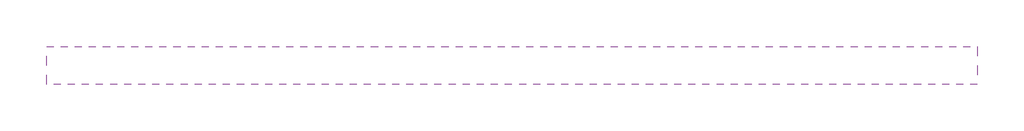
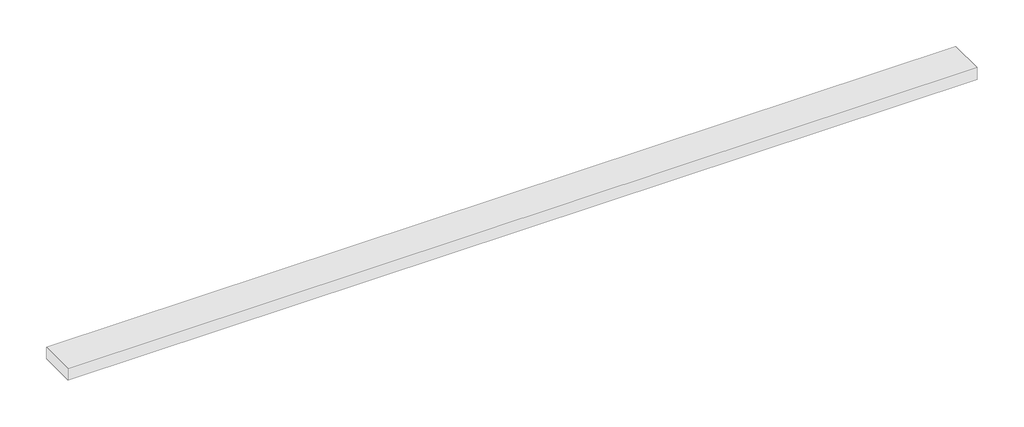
# One storey: 1 cable carrier segment.
"""IFC4 building model written with IfcOpenShell, lengths in millimetres."""

import ifcopenshell
import ifcopenshell.guid

model = None  # the IFC model being written
_history = None  # IfcOwnerHistory: only IFC2X3 demands one
_inside = {}  # id of a spatial element -> (the spatial element, [elements in it])
_under = {}  # id of a project, library or spatial element -> (it, [spatial elements below it])
_declared = {}  # id of a project -> (the project, [libraries it declares])
_typed = {}  # id of a type object -> (the type object, [elements of that type])
_made_of = {}  # id of a material, layer set ... -> (it, [elements and type objects made of it])


def new_model(schema):
    """Start an empty IFC model of exactly this schema.

    Asked for "IFC4X3", IfcOpenShell would pick the latest addendum, in which some entities
    have other attributes; the version numbers below select the first issue.
    IFC2X3 requires an IfcOwnerHistory on every rooted entity: one is made here for all.
    """
    global model, _history
    if schema == "IFC4X3":
        model = ifcopenshell.file(schema_version=(4, 3, 0, 0))
    else:
        model = ifcopenshell.file(schema=schema)
    _inside.clear()
    _under.clear()
    _declared.clear()
    _typed.clear()
    _made_of.clear()
    _history = None
    if model.schema == "IFC2X3":
        org = make("IfcOrganization", Name="unknown")
        user = make(
            "IfcPersonAndOrganization",
            ThePerson=make("IfcPerson", FamilyName="unknown"),
            TheOrganization=org,
        )
        app = make(
            "IfcApplication",
            ApplicationDeveloper=org,
            Version="unknown",
            ApplicationFullName="unknown",
            ApplicationIdentifier="unknown",
        )
        _history = make(
            "IfcOwnerHistory",
            OwningUser=user,
            OwningApplication=app,
            ChangeAction="ADDED",
            CreationDate=0,
        )
    return model


def make(cls, **values):
    """One entity of the class cls with the attributes given. An attribute that is None is left unset."""
    return model.create_entity(
        cls, **{name: value for name, value in values.items() if value is not None}
    )


def rooted(cls, **values):
    """An entity with a GlobalId (a new one), such as an element, a storey or a relation."""
    return make(cls, GlobalId=ifcopenshell.guid.new(), OwnerHistory=_history, **values)


def si_unit(unit_type, name, prefix=None):
    """IfcSIUnit, for example si_unit("LENGTHUNIT", "METRE", prefix="MILLI")."""
    return make("IfcSIUnit", UnitType=unit_type, Prefix=prefix, Name=name)


def assignment(units):
    """IfcUnitAssignment: the units of a project."""
    return None if units is None else make("IfcUnitAssignment", Units=units)


def point(xyz):
    """IfcCartesianPoint."""
    return None if xyz is None else make("IfcCartesianPoint", Coordinates=xyz)


def direction(xyz):
    """IfcDirection."""
    return None if xyz is None else make("IfcDirection", DirectionRatios=xyz)


def frame(location, z_axis=None, x_axis=None):
    """IfcAxis2Placement3D, a coordinate frame: its origin and axes. An axis left out is left unset."""
    return make(
        "IfcAxis2Placement3D",
        Location=point(location),
        Axis=direction(z_axis),
        RefDirection=direction(x_axis),
    )


def origin():
    """The frame at (0, 0, 0) with its axes left unset."""
    return frame((0.0, 0.0, 0.0))


def place(relative_to, where):
    """IfcLocalPlacement: puts the frame where relative to a parent placement (None: the world)."""
    return make(
        "IfcLocalPlacement", PlacementRelTo=relative_to, RelativePlacement=where
    )


def context(
    kind, dimensions, precision=None, world=None, true_north=None, identifier=None
):
    """IfcGeometricRepresentationContext, for example the 3D "Model" context."""
    return make(
        "IfcGeometricRepresentationContext",
        ContextIdentifier=identifier,
        ContextType=kind,
        CoordinateSpaceDimension=dimensions,
        Precision=precision,
        WorldCoordinateSystem=world,
        TrueNorth=true_north,
    )


def project(units=None, contexts=None):
    """IfcProject with its units and contexts."""
    return rooted(
        "IfcProject",
        Name="project",
        RepresentationContexts=contexts,
        UnitsInContext=assignment(units),
    )


def spatial(cls, under=None, at=None, **own):
    """A site, building, storey or space (cls), placed at a placement, below another one or the project."""
    s = rooted(cls, ObjectPlacement=at, **own)
    if under is not None:
        _under.setdefault(under.id(), (under, []))[1].append(s)
    return s


def polyline(points):
    """IfcPolyline through the points."""
    return make("IfcPolyline", Points=[point(p) for p in points])


def outline(outer, holes=None, kind="AREA"):
    """IfcArbitraryClosedProfileDef: a profile drawn as a closed curve; with holes, ...WithVoids."""
    if holes is None:
        return make("IfcArbitraryClosedProfileDef", ProfileType=kind, OuterCurve=outer)
    return make(
        "IfcArbitraryProfileDefWithVoids",
        ProfileType=kind,
        OuterCurve=outer,
        InnerCurves=holes,
    )


def extrude(swept, where, along, depth):
    """IfcExtrudedAreaSolid: the profile swept, set in the frame where, extruded along a direction by depth."""
    return make(
        "IfcExtrudedAreaSolid",
        SweptArea=swept,
        Position=where,
        ExtrudedDirection=direction(along),
        Depth=depth,
    )


def shape(context_of_items, identifier, shape_type, items):
    """IfcShapeRepresentation: the items that make up one representation, for example the "Body"."""
    return make(
        "IfcShapeRepresentation",
        ContextOfItems=context_of_items,
        RepresentationIdentifier=identifier,
        RepresentationType=shape_type,
        Items=items,
    )


def made_of(thing, what):
    """Note that an element or type object is made of a material, layer set ...; save() writes the relation."""
    if what is not None:
        _made_of.setdefault(what.id(), (what, []))[1].append(thing)
    return thing


def element(
    cls,
    number,
    at=None,
    inside=None,
    cuts=None,
    type_object=None,
    material=None,
    context=None,
    identifier="Body",
    shape_type=None,
    held_by="IfcProductDefinitionShape",
    body=None,
    shapes=None,
    **own,
):
    """One element of the class cls, such as IfcWall. Its Tag is "e" and its number.

    at: its placement. inside: the storey or other place that contains it. cuts: it is an
    opening in that element (IfcRelVoidsElement). A single representation is given by context,
    identifier, shape_type and body (its items); several are given by shapes. held_by: the class
    of the entity that holds the representations. save() writes the other relations.
    """
    e = rooted(cls, Tag="e%d" % number, ObjectPlacement=at, **own)
    if body is not None:
        shapes = [shape(context, identifier, shape_type, body)]
    if shapes is not None:
        e.Representation = make(held_by, Representations=shapes)
    if inside is not None:
        _inside.setdefault(inside.id(), (inside, []))[1].append(e)
    if cuts is not None:
        rooted(
            "IfcRelVoidsElement", RelatingBuildingElement=cuts, RelatedOpeningElement=e
        )
    if type_object is not None:
        _typed.setdefault(type_object.id(), (type_object, []))[1].append(e)
    return made_of(e, material)


def aggregate(whole, parts):
    """IfcRelAggregates: a whole, such as a stair, and the parts it consists of."""
    return rooted("IfcRelAggregates", RelatingObject=whole, RelatedObjects=parts)


def save(model, path):
    """Write the relations noted so far, then the file.

    IfcRelAggregates (storeys below a building ...), IfcRelContainedInSpatialStructure (elements
    in a storey), IfcRelDefinesByType, IfcRelAssociatesMaterial and IfcRelDeclares: one each for
    every whole, place, type object, material and project.
    """
    for whole, parts in _under.values():
        aggregate(whole, parts)
    for where, things in _inside.values():
        rooted(
            "IfcRelContainedInSpatialStructure",
            RelatedElements=things,
            RelatingStructure=where,
        )
    for kind, things in _typed.values():
        rooted("IfcRelDefinesByType", RelatedObjects=things, RelatingType=kind)
    for what, things in _made_of.values():
        rooted("IfcRelAssociatesMaterial", RelatedObjects=things, RelatingMaterial=what)
    for by, libraries in _declared.values():
        rooted("IfcRelDeclares", RelatingContext=by, RelatedDefinitions=libraries)
    model.write(path)


model = new_model("IFC4")

# Units and contexts
model_context = context("Model", 3, world=origin())
ifc_project = project(units=[si_unit("LENGTHUNIT", "METRE", prefix="MILLI")], contexts=[model_context])

# Site, building, storey
site = spatial("IfcSite", under=ifc_project)
building = spatial("IfcBuilding", under=site)
storey = spatial("IfcBuildingStorey", under=building, Name="标高 1", Elevation=0.0)

# Cable carrier segment
placement = place(None, origin())
element("IfcCableCarrierSegment", 1, ObjectType="ZH-标准桥架", at=placement, inside=storey, context=model_context, shape_type="SweptSolid", body=[
    extrude(outline(polyline([(-11136.4587558, 29447.4676869), (-11136.4587558, 29747.4676869), (-3794.6566369, 29747.4676869), (-3794.6566369, 29447.4676869), (-11136.4587558, 29447.4676869)])), frame((0.0, 0.0, 2700.0), z_axis=(0.0, 0.0, 1.0), x_axis=(1.0, 0.0, 0.0)), (0.0, 0.0, 1.0), 100.0),
])

save(model, "model.ifc")
